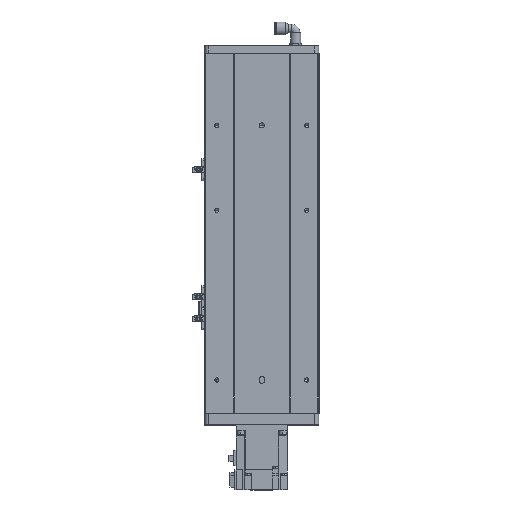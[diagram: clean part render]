
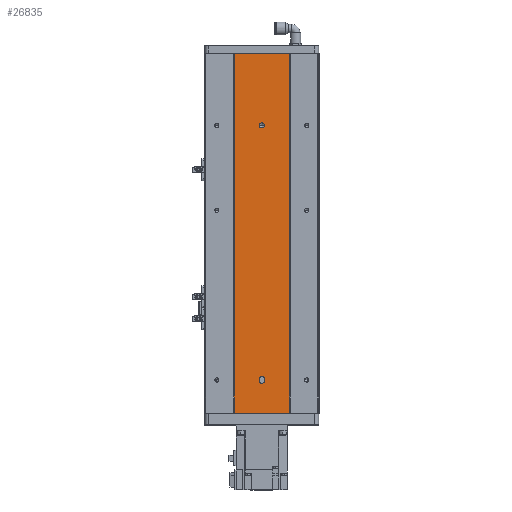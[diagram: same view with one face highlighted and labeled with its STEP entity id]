
A CAD part, top view. The second image highlights one B-rep face of the part: STEP entity #26835.
In plain terms, the highlighted planar face has unit normal (0, 0, 1).
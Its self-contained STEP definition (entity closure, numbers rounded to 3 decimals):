
#281 = VECTOR ( 'NONE', #7356, 1000. ) ;
#823 = ORIENTED_EDGE ( 'NONE', *, *, #27832, .F. ) ;
#1015 = ORIENTED_EDGE ( 'NONE', *, *, #6179, .F. ) ;
#1553 = FACE_BOUND ( 'NONE', #2150, .T. ) ;
#2150 = EDGE_LOOP ( 'NONE', ( #22499, #28767 ) ) ;
#2390 = VERTEX_POINT ( 'NONE', #19573 ) ;
#2541 = CARTESIAN_POINT ( 'NONE',  ( -3., 40., 34.4 ) ) ;
#2834 = AXIS2_PLACEMENT_3D ( 'NONE', #8615, #15945, #28227 ) ;
#2840 = CIRCLE ( 'NONE', #27912, 3. ) ;
#3092 = VECTOR ( 'NONE', #13337, 1000. ) ;
#4129 = VERTEX_POINT ( 'NONE', #13446 ) ;
#5100 = ORIENTED_EDGE ( 'NONE', *, *, #27839, .T. ) ;
#6179 = EDGE_CURVE ( 'NONE', #22040, #2390, #11030, .T. ) ;
#7161 = EDGE_CURVE ( 'NONE', #11740, #22040, #20041, .T. ) ;
#7356 = DIRECTION ( 'NONE',  ( 0., -1., 0. ) ) ;
#7396 = CARTESIAN_POINT ( 'NONE',  ( 32.5, 0., 34.4 ) ) ;
#7501 = DIRECTION ( 'NONE',  ( 0., 0., 1. ) ) ;
#8488 = CARTESIAN_POINT ( 'NONE',  ( 3., 40., 34.4 ) ) ;
#8544 = ORIENTED_EDGE ( 'NONE', *, *, #7161, .F. ) ;
#8614 = CARTESIAN_POINT ( 'NONE',  ( -32.5, 424., 34.4 ) ) ;
#8615 = CARTESIAN_POINT ( 'NONE',  ( 0., 38., 34.4 ) ) ;
#8811 = EDGE_CURVE ( 'NONE', #16850, #14984, #17070, .T. ) ;
#9087 = DIRECTION ( 'NONE',  ( 1., 0., 0. ) ) ;
#9266 = EDGE_CURVE ( 'NONE', #20869, #15806, #2840, .T. ) ;
#9390 = FACE_OUTER_BOUND ( 'NONE', #20459, .T. ) ;
#9560 = DIRECTION ( 'NONE',  ( 1., 0., 0. ) ) ;
#9607 = VECTOR ( 'NONE', #16139, 1000. ) ;
#9749 = CARTESIAN_POINT ( 'NONE',  ( 32.5, 424., 34.4 ) ) ;
#10046 = DIRECTION ( 'NONE',  ( 1., 0., 0. ) ) ;
#10634 = CARTESIAN_POINT ( 'NONE',  ( 32.5, 424., 34.4 ) ) ;
#10688 = VECTOR ( 'NONE', #18135, 1000. ) ;
#10724 = ORIENTED_EDGE ( 'NONE', *, *, #13049, .T. ) ;
#11030 = LINE ( 'NONE', #2541, #281 ) ;
#11434 = VERTEX_POINT ( 'NONE', #31019 ) ;
#11610 = AXIS2_PLACEMENT_3D ( 'NONE', #24166, #7501, #9560 ) ;
#11620 = DIRECTION ( 'NONE',  ( -1., 0., 0. ) ) ;
#11740 = VERTEX_POINT ( 'NONE', #8488 ) ;
#11826 = DIRECTION ( 'NONE',  ( 1., 0., 0. ) ) ;
#11984 = ORIENTED_EDGE ( 'NONE', *, *, #16740, .F. ) ;
#13049 = EDGE_CURVE ( 'NONE', #4129, #11434, #13557, .T. ) ;
#13337 = DIRECTION ( 'NONE',  ( 0., -1., 0. ) ) ;
#13446 = CARTESIAN_POINT ( 'NONE',  ( -32.5, 424., 34.4 ) ) ;
#13531 = CARTESIAN_POINT ( 'NONE',  ( 3., 40., 34.4 ) ) ;
#13557 = LINE ( 'NONE', #8614, #3092 ) ;
#14984 = VERTEX_POINT ( 'NONE', #7396 ) ;
#15100 = CARTESIAN_POINT ( 'NONE',  ( 3., 339., 34.4 ) ) ;
#15669 = CARTESIAN_POINT ( 'NONE',  ( 0., 339., 34.4 ) ) ;
#15806 = VERTEX_POINT ( 'NONE', #20489 ) ;
#15945 = DIRECTION ( 'NONE',  ( 0., 0., 1. ) ) ;
#15977 = LINE ( 'NONE', #25399, #9607 ) ;
#16139 = DIRECTION ( 'NONE',  ( 1., 0., 0. ) ) ;
#16209 = LINE ( 'NONE', #29296, #21893 ) ;
#16609 = DIRECTION ( 'NONE',  ( 0., -1., 0. ) ) ;
#16740 = EDGE_CURVE ( 'NONE', #19270, #11740, #22374, .T. ) ;
#16850 = VERTEX_POINT ( 'NONE', #9749 ) ;
#17070 = LINE ( 'NONE', #10634, #21990 ) ;
#17819 = EDGE_CURVE ( 'NONE', #15806, #20869, #22316, .T. ) ;
#18135 = DIRECTION ( 'NONE',  ( 0., 1., 0. ) ) ;
#18415 = FACE_BOUND ( 'NONE', #26782, .T. ) ;
#19270 = VERTEX_POINT ( 'NONE', #19437 ) ;
#19437 = CARTESIAN_POINT ( 'NONE',  ( 3., 38., 34.4 ) ) ;
#19573 = CARTESIAN_POINT ( 'NONE',  ( -3., 38., 34.4 ) ) ;
#20041 = CIRCLE ( 'NONE', #23257, 3. ) ;
#20459 = EDGE_LOOP ( 'NONE', ( #5100, #30660, #21810, #10724 ) ) ;
#20489 = CARTESIAN_POINT ( 'NONE',  ( -3., 339., 34.4 ) ) ;
#20869 = VERTEX_POINT ( 'NONE', #15100 ) ;
#21342 = CARTESIAN_POINT ( 'NONE',  ( -32.5, 424., 34.4 ) ) ;
#21517 = CARTESIAN_POINT ( 'NONE',  ( 0., 40., 34.4 ) ) ;
#21810 = ORIENTED_EDGE ( 'NONE', *, *, #29702, .F. ) ;
#21893 = VECTOR ( 'NONE', #10046, 1000. ) ;
#21990 = VECTOR ( 'NONE', #16609, 1000. ) ;
#22040 = VERTEX_POINT ( 'NONE', #23352 ) ;
#22316 = CIRCLE ( 'NONE', #11610, 3. ) ;
#22374 = LINE ( 'NONE', #13531, #10688 ) ;
#22499 = ORIENTED_EDGE ( 'NONE', *, *, #9266, .F. ) ;
#23138 = CIRCLE ( 'NONE', #2834, 3. ) ;
#23257 = AXIS2_PLACEMENT_3D ( 'NONE', #21517, #28718, #9087 ) ;
#23352 = CARTESIAN_POINT ( 'NONE',  ( -3., 40., 34.4 ) ) ;
#23857 = DIRECTION ( 'NONE',  ( 0., 0., 1. ) ) ;
#23927 = AXIS2_PLACEMENT_3D ( 'NONE', #21342, #25908, #11620 ) ;
#24166 = CARTESIAN_POINT ( 'NONE',  ( 0., 339., 34.4 ) ) ;
#25399 = CARTESIAN_POINT ( 'NONE',  ( -32.5, 0., 34.4 ) ) ;
#25908 = DIRECTION ( 'NONE',  ( 0., 0., -1. ) ) ;
#26025 = PLANE ( 'NONE',  #23927 ) ;
#26782 = EDGE_LOOP ( 'NONE', ( #1015, #8544, #11984, #823 ) ) ;
#26835 = ADVANCED_FACE ( 'NONE', ( #1553, #18415, #9390 ), #26025, .F. ) ;
#27832 = EDGE_CURVE ( 'NONE', #2390, #19270, #23138, .T. ) ;
#27839 = EDGE_CURVE ( 'NONE', #11434, #14984, #15977, .T. ) ;
#27912 = AXIS2_PLACEMENT_3D ( 'NONE', #15669, #23857, #11826 ) ;
#28227 = DIRECTION ( 'NONE',  ( 1., 0., 0. ) ) ;
#28718 = DIRECTION ( 'NONE',  ( 0., 0., 1. ) ) ;
#28767 = ORIENTED_EDGE ( 'NONE', *, *, #17819, .F. ) ;
#29296 = CARTESIAN_POINT ( 'NONE',  ( -32.5, 424., 34.4 ) ) ;
#29702 = EDGE_CURVE ( 'NONE', #4129, #16850, #16209, .T. ) ;
#30660 = ORIENTED_EDGE ( 'NONE', *, *, #8811, .F. ) ;
#31019 = CARTESIAN_POINT ( 'NONE',  ( -32.5, 0., 34.4 ) ) ;
